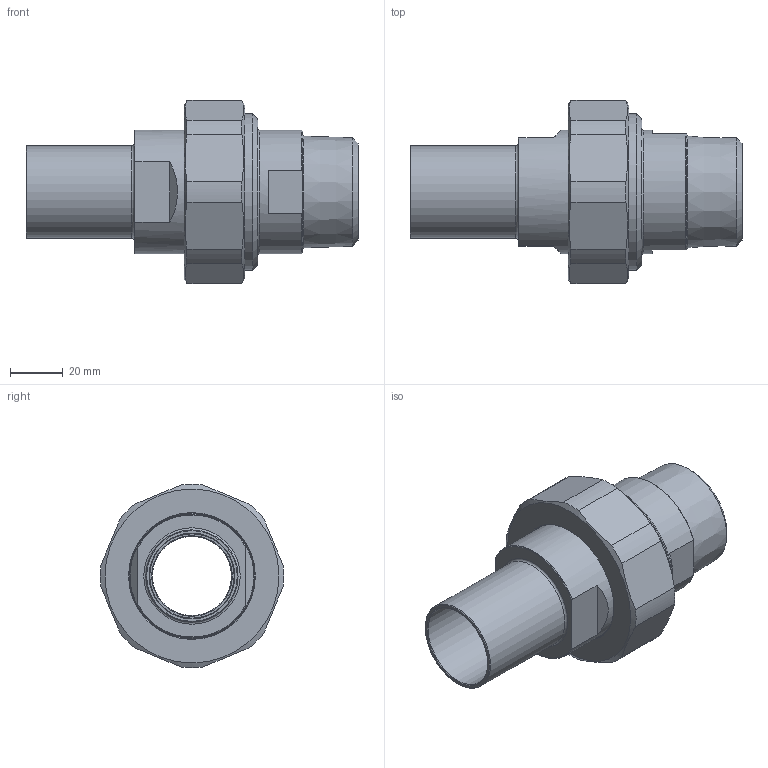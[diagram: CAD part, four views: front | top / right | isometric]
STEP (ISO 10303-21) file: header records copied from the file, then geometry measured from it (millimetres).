
FILE_DESCRIPTION(/* description */ (''),/* implementation_level */ '2;1');
FILE_NAME(/* name */ 'C:\Users\cad\Desktop\Zeichnungen neu von Ralph\Ganze Kupplungen\3D_Kupplung-R666-PE-UG\3D_R666-PE-UG-35-DN50-DN32_171130969.stp',/* time_stamp */ '2021-07-16T12:56:20+02:00',/* author */ ('cad'),/* organization */ (''),/* preprocessor_version */ 'ST-DEVELOPER v18.1',/* originating_system */ 'Autodesk Inventor 2022',/* authorisation */ '');
FILE_SCHEMA (('AUTOMOTIVE_DESIGN { 1 0 10303 214 3 1 1 }'));
Length unit declared in the file: millimetre
Products named in the file (4): 3D_R666-PE-UG-35-DN50-DN32_171130969; 3D_R666-M-DN50_17113960; 3D_R666-UG-DN32-DN50_17113650; 3D_R666-PE-35-DN50_17113482
Assembly tree (3 placements, depth 2):
  3D_R666-PE-UG-35-DN50-DN32_171130969
    3D_R666-M-DN50_17113960
    3D_R666-UG-DN32-DN50_17113650
    3D_R666-PE-35-DN50_17113482
Bounding box: 126 x 69.68 x 69.65 mm (x, y, z)
Volume: 126534.3 mm3; surface area: 47850.6 mm2
Topology: 3 solids, 3 shells, 72 faces, 182 edges, 121 vertices
Faces by surface type: plane 27, cone 21, cylinder 18, torus 6
Full cylindrical faces by diameter (mm): 30 x1, 32 x1, 35 x1, 47 x2, 47.5 x1, 54.5 x1, 56.656 x1, 59.5 x1, 60 x1
Entity records: 2348 total; most frequent: CARTESIAN_POINT 430, DIRECTION 415, ORIENTED_EDGE 364, EDGE_CURVE 182, AXIS2_PLACEMENT_3D 178, VERTEX_POINT 121, CIRCLE 97, EDGE_LOOP 83
